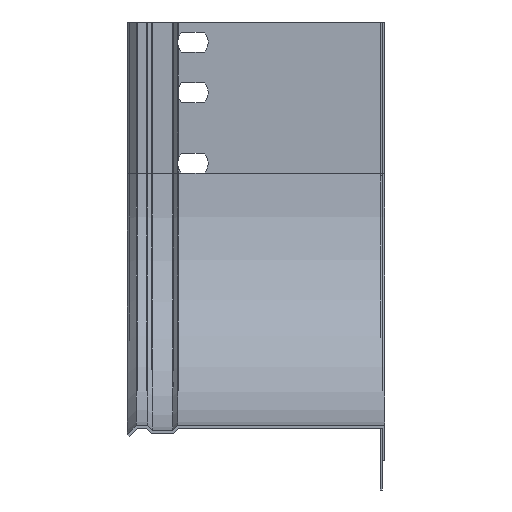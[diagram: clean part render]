
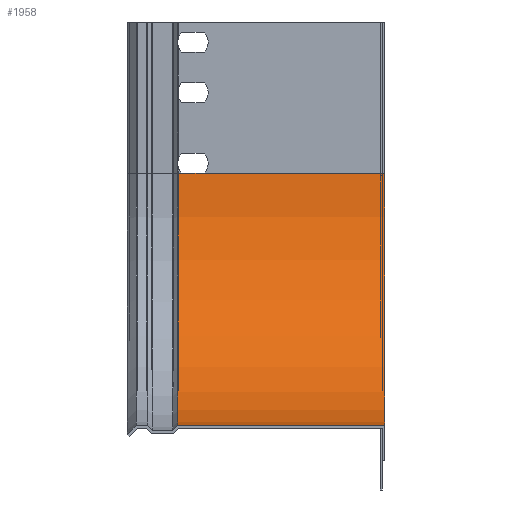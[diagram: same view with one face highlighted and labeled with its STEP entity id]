
A CAD part, left-side view. The second image highlights one B-rep face of the part: STEP entity #1958.
In plain terms, the highlighted cylindrical face has radius 100 mm (diameter 200 mm), a partial arc.
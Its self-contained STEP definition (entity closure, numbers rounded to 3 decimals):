
#28 = LINE ( 'NONE', #499, #2645 ) ;
#77 = AXIS2_PLACEMENT_3D ( 'NONE', #4173, #1465, #2983 ) ;
#305 = DIRECTION ( 'NONE',  ( 0., 1., 0. ) ) ;
#395 = AXIS2_PLACEMENT_3D ( 'NONE', #2825, #439, #1270 ) ;
#400 = EDGE_CURVE ( 'NONE', #3903, #3745, #3469, .T. ) ;
#439 = DIRECTION ( 'NONE',  ( 0., -1., 0. ) ) ;
#474 = CIRCLE ( 'NONE', #395, 100. ) ;
#482 = VECTOR ( 'NONE', #2749, 1000. ) ;
#499 = CARTESIAN_POINT ( 'NONE',  ( -160., 0., 60. ) ) ;
#550 = CARTESIAN_POINT ( 'NONE',  ( -160., 0., 60. ) ) ;
#626 = CYLINDRICAL_SURFACE ( 'NONE', #1525, 100. ) ;
#694 = CARTESIAN_POINT ( 'NONE',  ( -60., 80.472, 160. ) ) ;
#823 = CARTESIAN_POINT ( 'NONE',  ( -160., 80.472, 60. ) ) ;
#840 = ORIENTED_EDGE ( 'NONE', *, *, #3237, .T. ) ;
#970 = VERTEX_POINT ( 'NONE', #4548 ) ;
#1081 = VERTEX_POINT ( 'NONE', #2619 ) ;
#1215 = ORIENTED_EDGE ( 'NONE', *, *, #4881, .T. ) ;
#1240 = DIRECTION ( 'NONE',  ( 0., 1., 0. ) ) ;
#1252 = EDGE_CURVE ( 'NONE', #2102, #970, #28, .T. ) ;
#1270 = DIRECTION ( 'NONE',  ( 0., 0., -1. ) ) ;
#1465 = DIRECTION ( 'NONE',  ( 0., -1., 0. ) ) ;
#1525 = AXIS2_PLACEMENT_3D ( 'NONE', #1964, #2580, #4176 ) ;
#1538 = VECTOR ( 'NONE', #1240, 1000. ) ;
#1738 = LINE ( 'NONE', #3527, #1538 ) ;
#1910 = LINE ( 'NONE', #3130, #482 ) ;
#1958 = ADVANCED_FACE ( 'NONE', ( #3111 ), #626, .F. ) ;
#1963 = DIRECTION ( 'NONE',  ( 0., 1., 0. ) ) ;
#1964 = CARTESIAN_POINT ( 'NONE',  ( -60., 0., 60. ) ) ;
#2001 = ORIENTED_EDGE ( 'NONE', *, *, #3774, .F. ) ;
#2020 = ORIENTED_EDGE ( 'NONE', *, *, #3271, .F. ) ;
#2027 = DIRECTION ( 'NONE',  ( 0., 1., 0. ) ) ;
#2056 = CARTESIAN_POINT ( 'NONE',  ( -60., 71.528, 160. ) ) ;
#2102 = VERTEX_POINT ( 'NONE', #823 ) ;
#2195 = ORIENTED_EDGE ( 'NONE', *, *, #1252, .T. ) ;
#2239 = LINE ( 'NONE', #694, #2752 ) ;
#2580 = DIRECTION ( 'NONE',  ( 0., -1., 0. ) ) ;
#2619 = CARTESIAN_POINT ( 'NONE',  ( -60., 82., 160. ) ) ;
#2645 = VECTOR ( 'NONE', #2027, 1000. ) ;
#2681 = CARTESIAN_POINT ( 'NONE',  ( -60., 0., 160. ) ) ;
#2741 = DIRECTION ( 'NONE',  ( 0., 1., 0. ) ) ;
#2749 = DIRECTION ( 'NONE',  ( 0., 1., 0. ) ) ;
#2752 = VECTOR ( 'NONE', #305, 1000. ) ;
#2825 = CARTESIAN_POINT ( 'NONE',  ( -60., 82., 60. ) ) ;
#2983 = DIRECTION ( 'NONE',  ( 0., 0., -1. ) ) ;
#3085 = CARTESIAN_POINT ( 'NONE',  ( -60., 0., 160. ) ) ;
#3092 = VECTOR ( 'NONE', #2741, 1000. ) ;
#3111 = FACE_OUTER_BOUND ( 'NONE', #4104, .T. ) ;
#3115 = VERTEX_POINT ( 'NONE', #550 ) ;
#3130 = CARTESIAN_POINT ( 'NONE',  ( -60., 0., 160. ) ) ;
#3237 = EDGE_CURVE ( 'NONE', #4848, #2102, #1738, .T. ) ;
#3271 = EDGE_CURVE ( 'NONE', #1081, #970, #474, .T. ) ;
#3300 = ORIENTED_EDGE ( 'NONE', *, *, #400, .F. ) ;
#3469 = LINE ( 'NONE', #3085, #4706 ) ;
#3493 = CARTESIAN_POINT ( 'NONE',  ( -160., 71.528, 60. ) ) ;
#3527 = CARTESIAN_POINT ( 'NONE',  ( -160., 80.472, 60. ) ) ;
#3538 = VERTEX_POINT ( 'NONE', #3909 ) ;
#3563 = ORIENTED_EDGE ( 'NONE', *, *, #4307, .T. ) ;
#3745 = VERTEX_POINT ( 'NONE', #2056 ) ;
#3774 = EDGE_CURVE ( 'NONE', #3745, #3538, #2239, .T. ) ;
#3903 = VERTEX_POINT ( 'NONE', #2681 ) ;
#3909 = CARTESIAN_POINT ( 'NONE',  ( -60., 80.472, 160. ) ) ;
#4104 = EDGE_LOOP ( 'NONE', ( #3300, #3563, #1215, #840, #2195, #2020, #4425, #2001 ) ) ;
#4173 = CARTESIAN_POINT ( 'NONE',  ( -60., 0., 60. ) ) ;
#4176 = DIRECTION ( 'NONE',  ( 0., 0., -1. ) ) ;
#4307 = EDGE_CURVE ( 'NONE', #3903, #3115, #4569, .T. ) ;
#4313 = CARTESIAN_POINT ( 'NONE',  ( -160., 0., 60. ) ) ;
#4424 = EDGE_CURVE ( 'NONE', #3538, #1081, #1910, .T. ) ;
#4425 = ORIENTED_EDGE ( 'NONE', *, *, #4424, .F. ) ;
#4548 = CARTESIAN_POINT ( 'NONE',  ( -160., 82., 60. ) ) ;
#4569 = CIRCLE ( 'NONE', #77, 100. ) ;
#4706 = VECTOR ( 'NONE', #1963, 1000. ) ;
#4848 = VERTEX_POINT ( 'NONE', #3493 ) ;
#4881 = EDGE_CURVE ( 'NONE', #3115, #4848, #5025, .T. ) ;
#5025 = LINE ( 'NONE', #4313, #3092 ) ;
